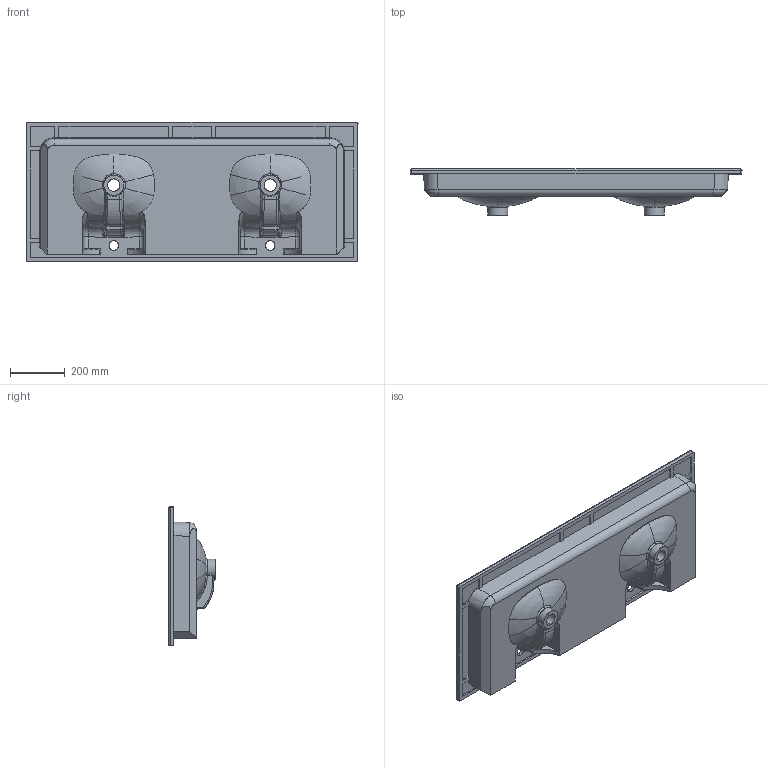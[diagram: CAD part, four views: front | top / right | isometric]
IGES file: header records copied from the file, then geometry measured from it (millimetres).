
Start section: SolidWorks IGES file using NURBS representation for surfaces
Global section: file name: C:\Users\User\Desktop\Soft\lavabi definitivi soft 51 m\soft 1210 x 515 2 vasche\soft 1210 x 510 2 vasche art. SO12D51101.IGS; native system: SolidWorks 2016; preprocessor: SolidWorks 2016; author: User; date: 200630.063856; units: millimetre
Bounding box: 1210 x 168 x 510 mm (x, y, z)
Surface area: 1726446.2 mm2 (no closed solid volume)
Topology: 0 solids, 0 shells, 263 faces, 8766 edges, 8752 vertices
Faces by surface type: bspline 263
